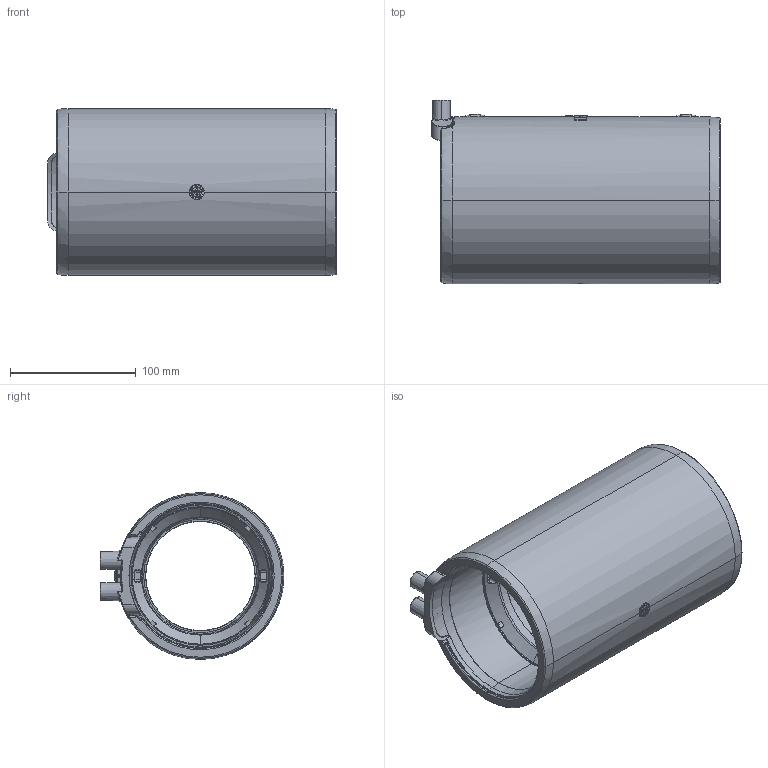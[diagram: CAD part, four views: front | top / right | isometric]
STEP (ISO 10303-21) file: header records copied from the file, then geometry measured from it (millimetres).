
FILE_DESCRIPTION (( 'STEP AP214' ), '1' );
FILE_NAME ('KP_2-110-90SCA.STEP', '2025-04-23T09:51:25', ( '' ), ( '' ), 'SwSTEP 2.0', 'SolidWorks 2023', '' );
FILE_SCHEMA (( 'AUTOMOTIVE_DESIGN' ));
Length unit declared in the file: millimetre
Products named in the file (1): KP_2-110-90SCA
Bounding box: 230.05 x 146.4 x 133 mm (x, y, z)
Volume: 1149588.6 mm3; surface area: 349073.7 mm2
Topology: 1 solids, 3 shells, 1892 faces, 4621 edges, 2772 vertices
Faces by surface type: bspline 694, plane 430, cylinder 282, torus 258, cone 124, sphere 104
Entity records: 77703 total; most frequent: CARTESIAN_POINT 39309, ORIENTED_EDGE 9166, DIRECTION 6567, EDGE_CURVE 4583, VERTEX_POINT 2770, AXIS2_PLACEMENT_3D 2759, EDGE_LOOP 1993, FACE_OUTER_BOUND 1892
